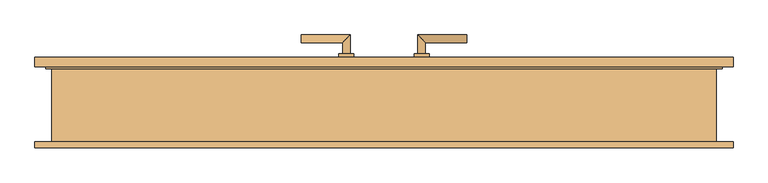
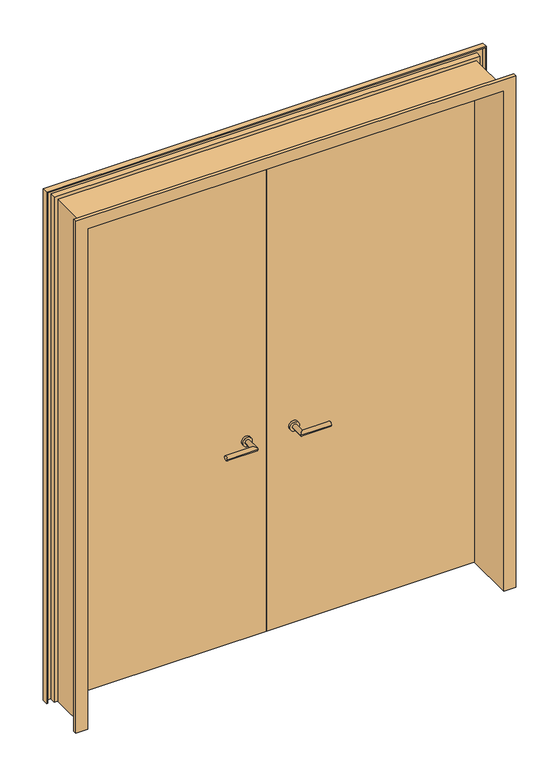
"""IFC4 building model written with IfcOpenShell, lengths in millimetres: door geometry, Drehflügel 2-flg - Variabel : Drehflügel 2-flg - Variabel."""

from ifc_helpers import new_model, si_unit, point, frame, frame_2d, origin, origin_with_axes, place, context, project, spatial, polyline, circle_curve, ellipse_curve, trimmed, segment, composite_curve, outline, extrude, faceted_brep, source, transform, mapped, element, save
from ifc_brep_helpers import plane_surface, cylinder_surface, advanced_brep


def door_1b82a2a8(model_context):
    return source(origin(), model_context, "Body", "SolidModel", [
        advanced_brep(
        [(-90.0, 89.4346141, 900.0), (-110.0, 89.4346141, 900.0), (-110.0, 39.4346141, 900.0), (-90.0, 19.4346141, 900.0), (-220.0, 19.4346141, 900.0), (-220.0, 39.4346141, 900.0)],
        [
            (0, 1, circle_curve(frame((-100.0, 89.4346141, 900.0), z_axis=(0.0, 1.0, 0.0), x_axis=(-1.0, 0.0, 0.0)), 10.0)),
            (1, 0, circle_curve(frame((-100.0, 89.4346141, 900.0), z_axis=(0.0, 1.0, 0.0), x_axis=(-1.0, 0.0, 0.0)), 10.0)),
            (1, 2),
            (2, 3, ellipse_curve(frame((-100.0, 29.4346141, 900.0), z_axis=(0.7071067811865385, 0.7071067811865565, 0.0), x_axis=(-0.7071067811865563, 0.7071067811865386, 0.0)), 14.1421356, 10.0)),
            (3, 0),
            (3, 2, ellipse_curve(frame((-100.0, 29.4346141, 900.0), z_axis=(0.7071067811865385, 0.7071067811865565, 0.0), x_axis=(-0.7071067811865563, 0.7071067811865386, 0.0)), 14.1421356, 10.0)),
            (4, 5, circle_curve(frame((-220.0, 29.4346141, 900.0), z_axis=(-1.0, 0.0, 0.0), x_axis=(0.0, 1.0, 0.0)), 10.0)),
            (5, 4, circle_curve(frame((-220.0, 29.4346141, 900.0), z_axis=(-1.0, 0.0, 0.0), x_axis=(0.0, 1.0, 0.0)), 10.0)),
            (2, 5),
            (4, 3),
        ],
        [
            plane_surface(frame((-100.0, 89.4346141, -387.7526403), z_axis=(0.0, 1.0, 0.0), x_axis=(0.0, 0.0, 1.0))),
            cylinder_surface(frame((-100.0, 89.4346141, 900.0), z_axis=(0.0, 1.0, 0.0), x_axis=(-1.0, 0.0, 0.0)), 10.0),
            plane_surface(frame((-220.0, 29.4346141, -387.7526403), z_axis=(-1.0, 0.0, 0.0), x_axis=(0.0, 0.0, 1.0))),
            cylinder_surface(frame((-100.0, 29.4346141, 900.0), z_axis=(1.0, 0.0, 0.0), x_axis=(0.0, 1.0, 0.0)), 10.0),
        ],
        [
            (0, [[1, 2]]),
            (1, [[3, 4, 5, -2]]),
            (1, [[-5, 6, -3, -1]]),
            (2, [[7, 8]]),
            (3, [[9, -7, 10, -4]]),
            (3, [[-10, -8, -9, -6]]),
        ],
    ),
        advanced_brep(
        [(-110.0, 149.4346141, 900.0), (-90.0, 149.4346141, 900.0), (-90.0, 199.4346141, 900.0), (-110.0, 179.4346141, 900.0), (-220.0, 179.4346141, 900.0), (-220.0, 199.4346141, 900.0)],
        [
            (0, 1, circle_curve(frame((-100.0, 149.4346141, 900.0), z_axis=(0.0, -1.0, 0.0), x_axis=(1.0, 0.0, 0.0)), 10.0)),
            (1, 0, circle_curve(frame((-100.0, 149.4346141, 900.0), z_axis=(0.0, -1.0, 0.0), x_axis=(1.0, 0.0, 0.0)), 10.0)),
            (1, 2),
            (2, 3, ellipse_curve(frame((-100.0, 189.4346141, 900.0), z_axis=(0.7071067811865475, -0.7071067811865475, 0.0), x_axis=(-0.7071067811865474, -0.7071067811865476, 0.0)), 14.1421356, 10.0)),
            (3, 0),
            (3, 2, ellipse_curve(frame((-100.0, 189.4346141, 900.0), z_axis=(0.7071067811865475, -0.7071067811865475, 0.0), x_axis=(-0.7071067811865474, -0.7071067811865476, 0.0)), 14.1421356, 10.0)),
            (4, 5, circle_curve(frame((-220.0, 189.4346141, 900.0), z_axis=(-1.0, 0.0, 0.0), x_axis=(0.0, 1.0, 0.0)), 10.0)),
            (5, 4, circle_curve(frame((-220.0, 189.4346141, 900.0), z_axis=(-1.0, 0.0, 0.0), x_axis=(0.0, 1.0, 0.0)), 10.0)),
            (2, 5),
            (4, 3),
        ],
        [
            plane_surface(frame((-100.0, 149.4346141, -387.7526403), z_axis=(0.0, -1.0, 0.0), x_axis=(0.0, 0.0, 1.0))),
            cylinder_surface(frame((-100.0, 149.4346141, 900.0), z_axis=(0.0, -1.0, 0.0), x_axis=(1.0, 0.0, 0.0)), 10.0),
            plane_surface(frame((-220.0, 189.4346141, -387.7526403), z_axis=(-1.0, 0.0, 0.0), x_axis=(0.0, 0.0, 1.0))),
            cylinder_surface(frame((-100.0, 189.4346141, 900.0), z_axis=(1.0, 0.0, 0.0), x_axis=(0.0, 1.0, 0.0)), 10.0),
        ],
        [
            (0, [[1, 2]]),
            (1, [[3, 4, 5, -2]]),
            (1, [[-5, 6, -3, -1]]),
            (2, [[7, 8]]),
            (3, [[9, -7, 10, -4]]),
            (3, [[-10, -8, -9, -6]]),
        ],
    ),
        extrude(outline(composite_curve([segment(trimmed(circle_curve(frame_2d((900.0, -100.0)), 20.0), [point((900.0, -80.0))], [point((900.0, -120.0))], False, "CARTESIAN"), True, "CONTINUOUS"), segment(trimmed(circle_curve(frame_2d((900.0, -100.0)), 20.0), [point((900.0, -120.0))], [point((900.0, -80.0))], False, "CARTESIAN"), True, "CONTINUOUS")], self_intersect=False)), frame((0.0, 79.4346141, 0.0), z_axis=(0.0, 1.0, 0.0), x_axis=(0.0, 0.0, 1.0)), (0.0, 0.0, 1.0), 10.0),
        extrude(outline(composite_curve([segment(trimmed(circle_curve(frame_2d((900.0, -100.0)), 20.0), [point((900.0, -80.0))], [point((900.0, -120.0))], False, "CARTESIAN"), True, "CONTINUOUS"), segment(trimmed(circle_curve(frame_2d((900.0, -100.0)), 20.0), [point((900.0, -120.0))], [point((900.0, -80.0))], False, "CARTESIAN"), True, "CONTINUOUS")], self_intersect=False)), frame((0.0, 139.4346141, 0.0), z_axis=(0.0, 1.0, 0.0), x_axis=(0.0, 0.0, 1.0)), (0.0, 0.0, 1.0), 10.0),
        advanced_brep(
        [(90.0, 89.4346141, 900.0), (110.0, 89.4346141, 900.0), (90.0, 19.4346141, 900.0), (110.0, 39.4346141, 900.0), (220.0, 19.4346141, 900.0), (220.0, 39.4346141, 900.0)],
        [
            (0, 1, circle_curve(frame((100.0, 89.4346141, 900.0), z_axis=(0.0, 1.0, 0.0), x_axis=(1.0, 0.0, 0.0)), 10.0)),
            (1, 0, circle_curve(frame((100.0, 89.4346141, 900.0), z_axis=(0.0, 1.0, 0.0), x_axis=(1.0, 0.0, 0.0)), 10.0)),
            (0, 2),
            (2, 3, ellipse_curve(frame((100.0, 29.4346141, 900.0), z_axis=(-0.7071067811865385, 0.7071067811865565, 0.0), x_axis=(0.7071067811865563, 0.7071067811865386, 0.0)), 14.1421356, 10.0)),
            (3, 1),
            (3, 2, ellipse_curve(frame((100.0, 29.4346141, 900.0), z_axis=(-0.7071067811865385, 0.7071067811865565, 0.0), x_axis=(0.7071067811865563, 0.7071067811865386, 0.0)), 14.1421356, 10.0)),
            (4, 5, circle_curve(frame((220.0, 29.4346141, 900.0), z_axis=(1.0, 0.0, 0.0), x_axis=(0.0, 1.0, 0.0)), 10.0)),
            (5, 4, circle_curve(frame((220.0, 29.4346141, 900.0), z_axis=(1.0, 0.0, 0.0), x_axis=(0.0, 1.0, 0.0)), 10.0)),
            (2, 4),
            (5, 3),
        ],
        [
            plane_surface(frame((100.0, 89.4346141, -387.7526403), z_axis=(0.0, 1.0, 0.0), x_axis=(0.0, 0.0, 1.0))),
            cylinder_surface(frame((100.0, 89.4346141, 900.0), z_axis=(0.0, 1.0, 0.0), x_axis=(1.0, 0.0, 0.0)), 10.0),
            plane_surface(frame((220.0, 29.4346141, -387.7526403), z_axis=(1.0, 0.0, 0.0), x_axis=(0.0, 0.0, 1.0))),
            cylinder_surface(frame((100.0, 29.4346141, 900.0), z_axis=(-1.0, 0.0, 0.0), x_axis=(0.0, 1.0, 0.0)), 10.0),
        ],
        [
            (0, [[1, 2]]),
            (1, [[-1, 3, 4, 5]]),
            (1, [[-2, -5, 6, -3]]),
            (2, [[7, 8]]),
            (3, [[-4, 9, -8, 10]]),
            (3, [[-6, -10, -7, -9]]),
        ],
    ),
        advanced_brep(
        [(110.0, 149.4346141, 900.0), (90.0, 149.4346141, 900.0), (110.0, 179.4346141, 900.0), (90.0, 199.4346141, 900.0), (220.0, 179.4346141, 900.0), (220.0, 199.4346141, 900.0)],
        [
            (0, 1, circle_curve(frame((100.0, 149.4346141, 900.0), z_axis=(0.0, -1.0, 0.0), x_axis=(-1.0, 0.0, 0.0)), 10.0)),
            (1, 0, circle_curve(frame((100.0, 149.4346141, 900.0), z_axis=(0.0, -1.0, 0.0), x_axis=(-1.0, 0.0, 0.0)), 10.0)),
            (0, 2),
            (2, 3, ellipse_curve(frame((100.0, 189.4346141, 900.0), z_axis=(-0.7071067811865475, -0.7071067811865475, 0.0), x_axis=(0.7071067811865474, -0.7071067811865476, 0.0)), 14.1421356, 10.0)),
            (3, 1),
            (3, 2, ellipse_curve(frame((100.0, 189.4346141, 900.0), z_axis=(-0.7071067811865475, -0.7071067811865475, 0.0), x_axis=(0.7071067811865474, -0.7071067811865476, 0.0)), 14.1421356, 10.0)),
            (4, 5, circle_curve(frame((220.0, 189.4346141, 900.0), z_axis=(1.0, 0.0, 0.0), x_axis=(0.0, 1.0, 0.0)), 10.0)),
            (5, 4, circle_curve(frame((220.0, 189.4346141, 900.0), z_axis=(1.0, 0.0, 0.0), x_axis=(0.0, 1.0, 0.0)), 10.0)),
            (2, 4),
            (5, 3),
        ],
        [
            plane_surface(frame((100.0, 149.4346141, -387.7526403), z_axis=(0.0, -1.0, 0.0), x_axis=(0.0, 0.0, 1.0))),
            cylinder_surface(frame((100.0, 149.4346141, 900.0), z_axis=(0.0, -1.0, 0.0), x_axis=(-1.0, 0.0, 0.0)), 10.0),
            plane_surface(frame((220.0, 189.4346141, -387.7526403), z_axis=(1.0, 0.0, 0.0), x_axis=(0.0, 0.0, 1.0))),
            cylinder_surface(frame((100.0, 189.4346141, 900.0), z_axis=(-1.0, 0.0, 0.0), x_axis=(0.0, 1.0, 0.0)), 10.0),
        ],
        [
            (0, [[1, 2]]),
            (1, [[-1, 3, 4, 5]]),
            (1, [[-2, -5, 6, -3]]),
            (2, [[7, 8]]),
            (3, [[-4, 9, -8, 10]]),
            (3, [[-6, -10, -7, -9]]),
        ],
    ),
        extrude(outline(composite_curve([segment(trimmed(circle_curve(frame_2d((900.0, 100.0)), 20.0), [point((900.0, 80.0))], [point((900.0, 120.0))], False, "CARTESIAN"), True, "CONTINUOUS"), segment(trimmed(circle_curve(frame_2d((900.0, 100.0)), 20.0), [point((900.0, 120.0))], [point((900.0, 80.0))], False, "CARTESIAN"), True, "CONTINUOUS")], self_intersect=False)), frame((0.0, 79.4346141, 0.0), z_axis=(0.0, 1.0, 0.0), x_axis=(0.0, 0.0, 1.0)), (0.0, 0.0, 1.0), 10.0),
        extrude(outline(composite_curve([segment(trimmed(circle_curve(frame_2d((900.0, 100.0)), 20.0), [point((900.0, 80.0))], [point((900.0, 120.0))], False, "CARTESIAN"), True, "CONTINUOUS"), segment(trimmed(circle_curve(frame_2d((900.0, 100.0)), 20.0), [point((900.0, 120.0))], [point((900.0, 80.0))], False, "CARTESIAN"), True, "CONTINUOUS")], self_intersect=False)), frame((0.0, 139.4346141, 0.0), z_axis=(0.0, 1.0, 0.0), x_axis=(0.0, 0.0, 1.0)), (0.0, 0.0, 1.0), 10.0),
        extrude(outline(polyline([(0.0, 114.4346141), (-895.0, 114.4346141), (-895.0, 139.4346141), (0.0, 139.4346141), (0.0, 114.4346141)])), origin_with_axes(), (0.0, 0.0, 1.0), 2250.0),
        extrude(outline(polyline([(895.0, 114.4346141), (0.0, 114.4346141), (0.0, 139.4346141), (895.0, 139.4346141), (895.0, 114.4346141)])), origin_with_axes(), (0.0, 0.0, 1.0), 2250.0),
        faceted_brep([(929.5, -100.5653859, 0.0), (880.0, -100.5653859, 0.0), (880.0, 114.4346141, 0.0), (895.0, 114.4346141, 0.0), (895.0, 139.4346141, 0.0), (929.5, 139.4346141, 0.0), (929.5, 114.4346141, 0.0), (924.5, 114.4346141, 0.0), (924.5, 134.4346141, 0.0), (900.0, 134.4346141, 0.0), (900.0, 109.4346141, 0.0), (885.0, 109.4346141, 0.0), (885.0, -95.5653859, 0.0), (924.5, -95.5653859, 0.0), (924.5, -85.5653859, 0.0), (929.5, -85.5653859, 0.0), (929.5, -100.5653859, 2284.5), (-929.5, -100.5653859, 2284.5), (-929.5, -100.5653859, 0.0), (-880.0, -100.5653859, 0.0), (-880.0, -100.5653859, 2235.0), (880.0, -100.5653859, 2235.0), (880.0, 114.4346141, 2235.0), (-880.0, 114.4346141, 2235.0), (-880.0, 114.4346141, 0.0), (-895.0, 114.4346141, 0.0), (-895.0, 114.4346141, 2250.0), (895.0, 114.4346141, 2250.0), (895.0, 139.4346141, 2250.0), (-895.0, 139.4346141, 2250.0), (-895.0, 139.4346141, 0.0), (-929.5, 139.4346141, 0.0), (-929.5, 139.4346141, 2284.5), (929.5, 139.4346141, 2284.5), (929.5, 114.4346141, 2284.5), (-929.5, 114.4346141, 2284.5), (-929.5, 114.4346141, 0.0), (-924.5, 114.4346141, 0.0), (-924.5, 114.4346141, 2279.5), (924.5, 114.4346141, 2279.5), (924.5, 134.4346141, 2279.5), (-924.5, 134.4346141, 2279.5), (-924.5, 134.4346141, 0.0), (-900.0, 134.4346141, 0.0), (-900.0, 134.4346141, 2255.0), (900.0, 134.4346141, 2255.0), (900.0, 109.4346141, 2255.0), (-900.0, 109.4346141, 2255.0), (-900.0, 109.4346141, 0.0), (-885.0, 109.4346141, 0.0), (-885.0, 109.4346141, 2240.0), (885.0, 109.4346141, 2240.0), (885.0, -95.5653859, 2240.0), (-885.0, -95.5653859, 2240.0), (-885.0, -95.5653859, 0.0), (-924.5, -95.5653859, 0.0), (-924.5, -95.5653859, 2279.5), (924.5, -95.5653859, 2279.5), (924.5, -85.5653859, 2279.5), (-924.5, -85.5653859, 2279.5), (-924.5, -85.5653859, 0.0), (-929.5, -85.5653859, 0.0), (-929.5, -85.5653859, 2284.5), (929.5, -85.5653859, 2284.5)], [[[0, 1, 2, 3, 4, 5, 6, 7, 8, 9, 10, 11, 12, 13, 14, 15]], [[1, 0, 16, 17, 18, 19, 20, 21]], [[2, 1, 21, 22]], [[3, 2, 22, 23, 24, 25, 26, 27]], [[4, 3, 27, 28]], [[5, 4, 28, 29, 30, 31, 32, 33]], [[6, 5, 33, 34]], [[7, 6, 34, 35, 36, 37, 38, 39]], [[8, 7, 39, 40]], [[9, 8, 40, 41, 42, 43, 44, 45]], [[10, 9, 45, 46]], [[11, 10, 46, 47, 48, 49, 50, 51]], [[12, 11, 51, 52]], [[13, 12, 52, 53, 54, 55, 56, 57]], [[14, 13, 57, 58]], [[15, 14, 58, 59, 60, 61, 62, 63]], [[0, 15, 63, 16]], [[17, 62, 61, 18]], [[18, 61, 60, 55, 54, 49, 48, 43, 42, 37, 36, 31, 30, 25, 24, 19]], [[23, 20, 19, 24]], [[29, 26, 25, 30]], [[35, 32, 31, 36]], [[41, 38, 37, 42]], [[47, 44, 43, 48]], [[53, 50, 49, 54]], [[59, 56, 55, 60]], [[22, 21, 20, 23]], [[28, 27, 26, 29]], [[34, 33, 32, 35]], [[40, 39, 38, 41]], [[46, 45, 44, 47]], [[52, 51, 50, 53]], [[58, 57, 56, 59]], [[16, 63, 62, 17]]]),
    ])


if __name__ == "__main__":
    model = new_model("IFC4")
    model_context = context("Model", 3, world=origin())
    ifc_project = project(units=[si_unit("LENGTHUNIT", "METRE", prefix="MILLI")], contexts=[model_context])
    site = spatial("IfcSite", under=ifc_project)
    building = spatial("IfcBuilding", under=site)
    placement = place(None, origin())
    door_shape = door_1b82a2a8(model_context)
    element("IfcDoor", 1, ObjectType="Drehflügel 2-flg - Variabel : Drehflügel 2-flg - Variabel", at=placement, inside=building, context=model_context, shape_type="MappedRepresentation", body=[
        mapped(door_shape, transform((0.0, 0.0, 0.0), x_axis=(1.0, 0.0, 0.0), y_axis=(0.0, 1.0, 0.0), z_axis=(0.0, 0.0, 1.0))),
    ])
    save(model, "model.ifc")
